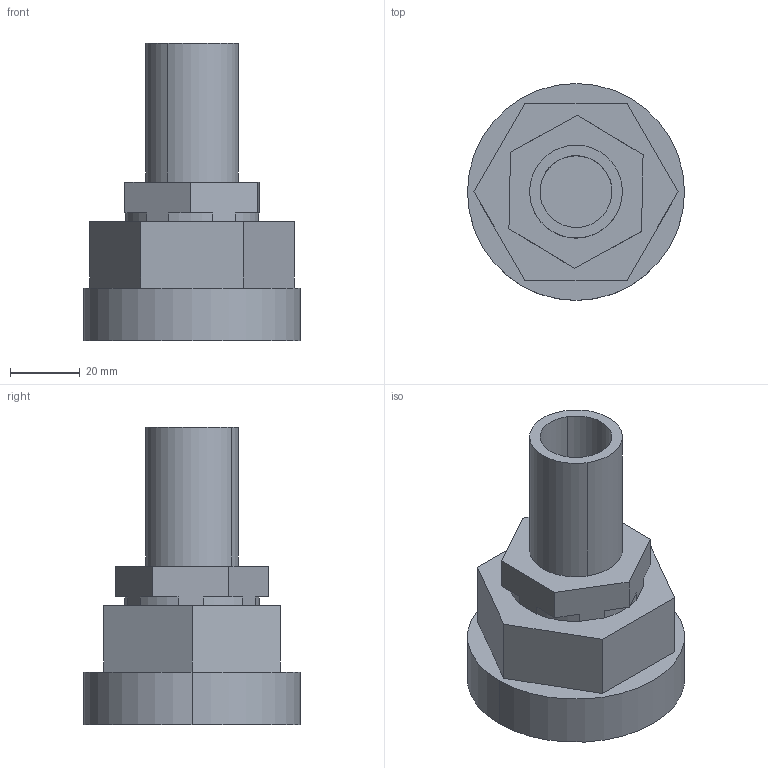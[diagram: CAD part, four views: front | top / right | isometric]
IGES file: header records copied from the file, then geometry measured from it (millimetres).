
Start section: SolidWorks IGES file using analytic representation for surfaces
Global section: file name: S:\Product Visuals\Pumps to be Defeatured\140 fittings\FITTING ASSEMBLIES\DEFEATURED\top-out\12-weldable-top-out.IGS; native system: SolidWorks 2012; preprocessor: SolidWorks 2012; author: rachel.dressel; date: 121203.152459; units: inch
Bounding box: 62.33 x 62.33 x 85.47 mm (x, y, z)
Volume: 111812.5 mm3; surface area: 19998.2 mm2
Topology: 1 solids, 1 shells, 36 faces, 90 edges, 60 vertices
Faces by surface type: plane 24, revolution 12
